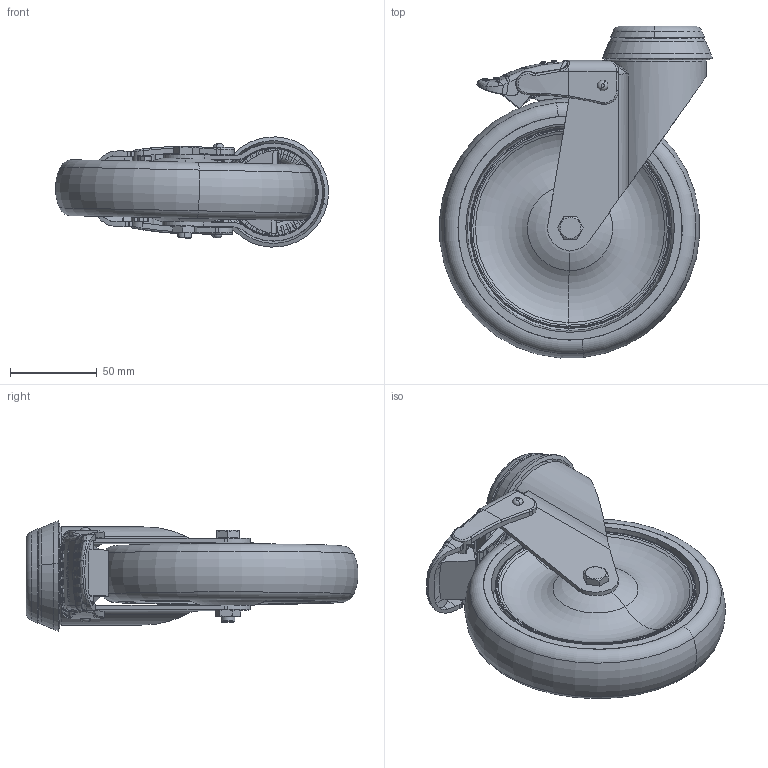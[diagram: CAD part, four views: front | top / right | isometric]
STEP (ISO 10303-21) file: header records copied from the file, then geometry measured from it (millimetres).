
FILE_DESCRIPTION (( 'STEP AP203' ), '1' );
FILE_NAME ('300894_STEP.STEP', '2012-02-28T07:23:23', ( '' ), ( '' ), 'SwSTEP 2.0', 'SolidWorks 2011', '' );
FILE_SCHEMA (( 'CONFIG_CONTROL_DESIGN' ));
Length unit declared in the file: millimetre
Products named in the file (1): 300894_STEP
Bounding box: 156.95 x 190.81 x 63.32 mm (x, y, z)
Surface area: 159819.8 mm2 (no closed solid volume)
Topology: 0 solids, 22 shells, 714 faces, 2833 edges, 2079 vertices
Faces by surface type: bspline 305, plane 221, cylinder 97, cone 49, torus 42
Entity records: 54561 total; most frequent: CARTESIAN_POINT 35601, ORIENTED_EDGE 4268, EDGE_CURVE 2828, DIRECTION 2467, VERTEX_POINT 2079, B_SPLINE_CURVE_WITH_KNOTS 1499, AXIS2_PLACEMENT_3D 829, VECTOR 809
